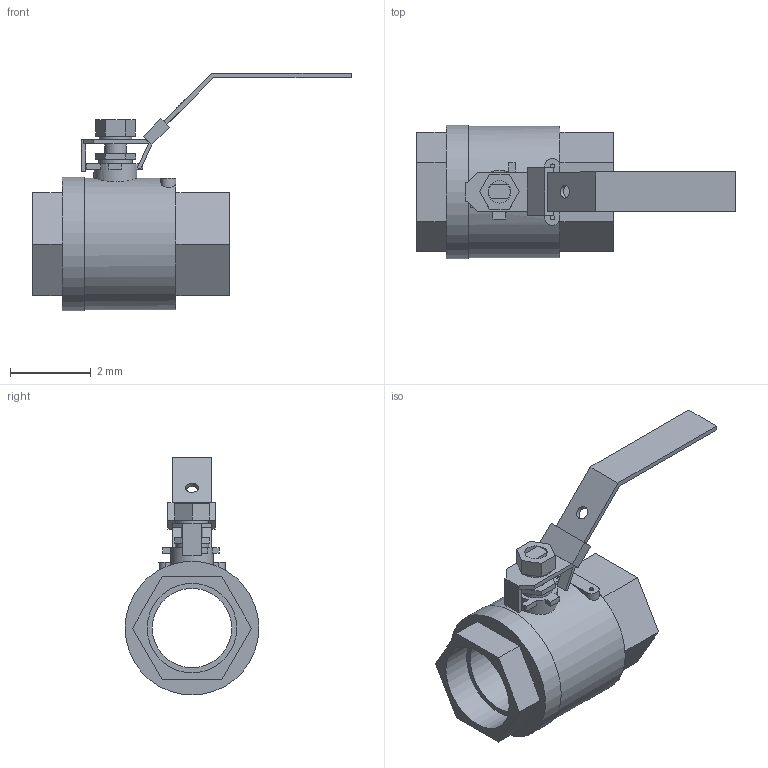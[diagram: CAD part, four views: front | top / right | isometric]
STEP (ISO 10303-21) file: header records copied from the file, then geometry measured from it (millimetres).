
FILE_DESCRIPTION(('Open CASCADE Model'),'2;1');
FILE_NAME('Open CASCADE Shape Model','2021-10-22T11:20:26',('Author'),( 'Open CASCADE'),'Open CASCADE STEP processor 7.3','Open CASCADE 7.3' ,'Unknown');
FILE_SCHEMA(('AUTOMOTIVE_DESIGN { 1 0 10303 214 1 1 1 1 }'));
Length unit declared in the file: millimetre
Products named in the file (1): Open CASCADE STEP translator 7.3 1
Bounding box: 7.91 x 3.32 x 5.91 mm (x, y, z)
Volume: 20.8 mm3; surface area: 117.2 mm2
Topology: 1 solids, 1 shells, 115 faces, 284 edges, 186 vertices
Faces by surface type: plane 98, cylinder 17
Full cylindrical faces by diameter (mm): 0.112 x2, 0.317 x1, 0.538 x1, 0.56 x1, 0.8 x1, 0.83 x1, 1.067 x1, 1.97 x1, 2.222 x2, 3.265 x1, 3.322 x1
Entity records: 7562 total; most frequent: CARTESIAN_POINT 1769, DIRECTION 1076, LINE 737, VECTOR 737, ORIENTED_EDGE 568, PCURVE 568, DEFINITIONAL_REPRESENTATION 568, EDGE_CURVE 284
